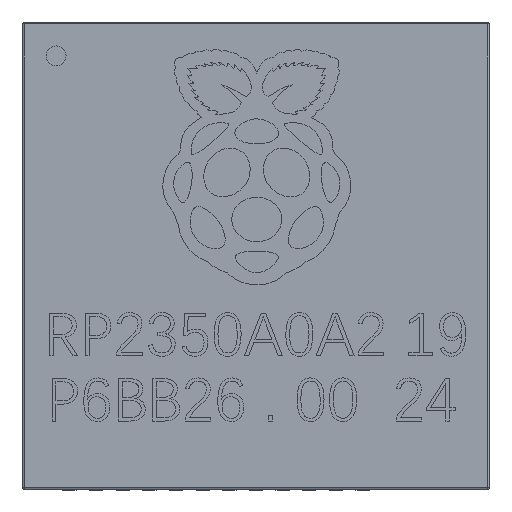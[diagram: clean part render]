
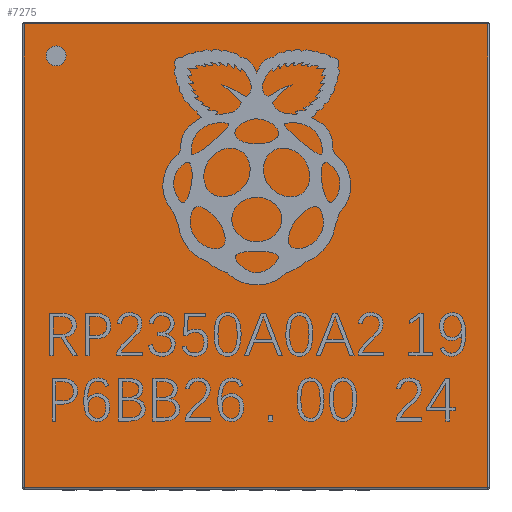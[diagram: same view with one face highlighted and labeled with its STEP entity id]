
A CAD part, top view. The second image highlights one B-rep face of the part: STEP entity #7275.
In plain terms, the highlighted planar face has unit normal (0, 0, 1).
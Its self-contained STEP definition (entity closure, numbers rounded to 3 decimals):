
#7101 = VERTEX_POINT('',#7102);
#7102 = CARTESIAN_POINT('',(-3.48,-3.48,0.75));
#7109 = EDGE_CURVE('',#7101,#7110,#7112,.T.);
#7110 = VERTEX_POINT('',#7111);
#7111 = CARTESIAN_POINT('',(3.48,-3.48,0.75));
#7112 = LINE('',#7113,#7114);
#7113 = CARTESIAN_POINT('',(-3.5,-3.48,0.75));
#7114 = VECTOR('',#7115,1.);
#7115 = DIRECTION('',(1.,0.,0.));
#7275 = ADVANCED_FACE('',(#7276,#7301),#7312,.T.);
#7276 = FACE_BOUND('',#7277,.T.);
#7277 = EDGE_LOOP('',(#7278,#7288,#7294,#7295));
#7278 = ORIENTED_EDGE('',*,*,#7279,.T.);
#7279 = EDGE_CURVE('',#7280,#7282,#7284,.T.);
#7280 = VERTEX_POINT('',#7281);
#7281 = CARTESIAN_POINT('',(3.48,3.48,0.75));
#7282 = VERTEX_POINT('',#7283);
#7283 = CARTESIAN_POINT('',(-3.48,3.48,0.75));
#7284 = LINE('',#7285,#7286);
#7285 = CARTESIAN_POINT('',(3.5,3.48,0.75));
#7286 = VECTOR('',#7287,1.);
#7287 = DIRECTION('',(-1.,0.,0.));
#7288 = ORIENTED_EDGE('',*,*,#7289,.T.);
#7289 = EDGE_CURVE('',#7282,#7101,#7290,.T.);
#7290 = LINE('',#7291,#7292);
#7291 = CARTESIAN_POINT('',(-3.48,3.5,0.75));
#7292 = VECTOR('',#7293,1.);
#7293 = DIRECTION('',(0.,-1.,0.));
#7294 = ORIENTED_EDGE('',*,*,#7109,.T.);
#7295 = ORIENTED_EDGE('',*,*,#7296,.T.);
#7296 = EDGE_CURVE('',#7110,#7280,#7297,.T.);
#7297 = LINE('',#7298,#7299);
#7298 = CARTESIAN_POINT('',(3.48,-3.5,0.75));
#7299 = VECTOR('',#7300,1.);
#7300 = DIRECTION('',(0.,1.,0.));
#7301 = FACE_BOUND('',#7302,.T.);
#7302 = EDGE_LOOP('',(#7303));
#7303 = ORIENTED_EDGE('',*,*,#7304,.F.);
#7304 = EDGE_CURVE('',#7305,#7305,#7307,.T.);
#7305 = VERTEX_POINT('',#7306);
#7306 = CARTESIAN_POINT('',(-2.85,3.,0.75));
#7307 = CIRCLE('',#7308,0.15);
#7308 = AXIS2_PLACEMENT_3D('',#7309,#7310,#7311);
#7309 = CARTESIAN_POINT('',(-3.,3.,0.75));
#7310 = DIRECTION('',(0.,0.,1.));
#7311 = DIRECTION('',(1.,0.,0.));
#7312 = PLANE('',#7313);
#7313 = AXIS2_PLACEMENT_3D('',#7314,#7315,#7316);
#7314 = CARTESIAN_POINT('',(0.,0.,0.75));
#7315 = DIRECTION('',(0.,0.,1.));
#7316 = DIRECTION('',(1.,0.,0.));
